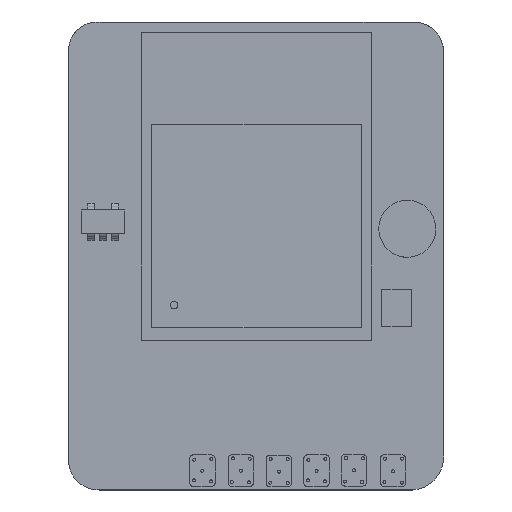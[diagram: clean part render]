
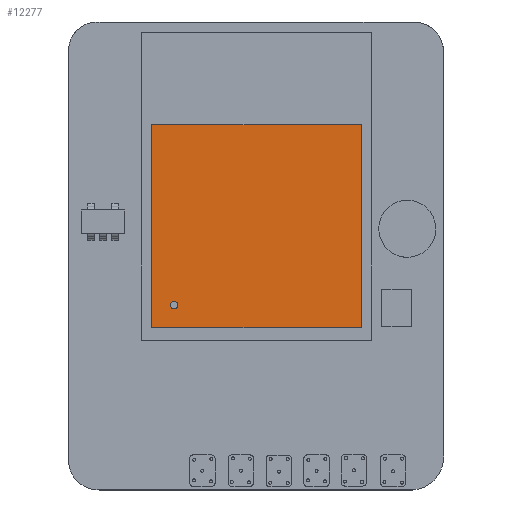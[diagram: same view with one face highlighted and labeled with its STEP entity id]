
A CAD part, top view. The second image highlights one B-rep face of the part: STEP entity #12277.
In plain terms, the highlighted planar face has unit normal (0, 0, 1).
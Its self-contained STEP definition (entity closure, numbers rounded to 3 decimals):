
#129 = EDGE_LOOP ( 'NONE', ( #6034, #7463 ) ) ;
#283 = CARTESIAN_POINT ( 'NONE',  ( -5.45, -8., 4.2 ) ) ;
#408 = VERTEX_POINT ( 'NONE', #10235 ) ;
#558 = CARTESIAN_POINT ( 'NONE',  ( -5.7, -8.25, 4.2 ) ) ;
#1457 = VERTEX_POINT ( 'NONE', #4093 ) ;
#2751 = ORIENTED_EDGE ( 'NONE', *, *, #10803, .F. ) ;
#3380 = ORIENTED_EDGE ( 'NONE', *, *, #13485, .F. ) ;
#3527 = CARTESIAN_POINT ( 'NONE',  ( -6.95, 3.8, 4.2 ) ) ;
#3646 = B_SPLINE_CURVE_WITH_KNOTS ( 'NONE', 1,
 ( #17366, #10234 ),
 .UNSPECIFIED., .F., .F.,
 ( 2, 2 ),
 ( -39., -26. ),
 .UNSPECIFIED. ) ;
#3715 = DIRECTION ( 'NONE',  ( 0., 0., 1. ) ) ;
#4093 = CARTESIAN_POINT ( 'NONE',  ( 7.05, 3.8, 4.2 ) ) ;
#4547 = CARTESIAN_POINT ( 'NONE',  ( -5.2, -8., 4.2 ) ) ;
#4733 = CARTESIAN_POINT ( 'NONE',  ( -5.7, -8., 4.2 ) ) ;
#5036 = CARTESIAN_POINT ( 'NONE',  ( -5.7, -8.25, 4.2 ) ) ;
#5108 = CARTESIAN_POINT ( 'NONE',  ( -5.2, -8.25, 4.2 ) ) ;
#6034 = ORIENTED_EDGE ( 'NONE', *, *, #14618, .T. ) ;
#6510 = CARTESIAN_POINT ( 'NONE',  ( -5.2, -8.25, 4.2 ) ) ;
#7172 = EDGE_CURVE ( 'NONE', #408, #1457, #12500, .T. ) ;
#7184 = VERTEX_POINT ( 'NONE', #5036 ) ;
#7463 = ORIENTED_EDGE ( 'NONE', *, *, #14895, .T. ) ;
#7776 =( BOUNDED_CURVE ( )  B_SPLINE_CURVE ( 2, ( #558, #4733, #283, #4547, #10193 ),
 .UNSPECIFIED., .F., .T. ) 
 B_SPLINE_CURVE_WITH_KNOTS ( ( 3, 2, 3 ),
 ( 0.785, 1.178, 1.571 ),
 .UNSPECIFIED. ) 
 CURVE ( )  GEOMETRIC_REPRESENTATION_ITEM ( )  RATIONAL_B_SPLINE_CURVE ( ( 1., 0.707, 1., 0.707, 1. ) ) 
 REPRESENTATION_ITEM ( '' )  );
#7817 = CARTESIAN_POINT ( 'NONE',  ( -6.95, 3.8, 4.2 ) ) ;
#8175 = ORIENTED_EDGE ( 'NONE', *, *, #7172, .F. ) ;
#9345 = DIRECTION ( 'NONE',  ( 1., 0., 0. ) ) ;
#9850 = CARTESIAN_POINT ( 'NONE',  ( -6.95, -9.75, 4.2 ) ) ;
#10193 = CARTESIAN_POINT ( 'NONE',  ( -5.2, -8.25, 4.2 ) ) ;
#10234 = CARTESIAN_POINT ( 'NONE',  ( 7.05, -9.75, 4.2 ) ) ;
#10235 = CARTESIAN_POINT ( 'NONE',  ( -6.95, 3.8, 4.2 ) ) ;
#10270 = VERTEX_POINT ( 'NONE', #5108 ) ;
#10608 = CARTESIAN_POINT ( 'NONE',  ( -6.95, -9.75, 4.2 ) ) ;
#10743 = PLANE ( 'NONE',  #14292 ) ;
#10803 = EDGE_CURVE ( 'NONE', #1457, #16763, #3646, .T. ) ;
#10954 = CARTESIAN_POINT ( 'NONE',  ( -5.7, -8.25, 4.2 ) ) ;
#11241 = CARTESIAN_POINT ( 'NONE',  ( 7.05, -9.75, 4.2 ) ) ;
#11765 = FACE_OUTER_BOUND ( 'NONE', #12916, .T. ) ;
#11951 = FACE_BOUND ( 'NONE', #129, .T. ) ;
#12224 = CARTESIAN_POINT ( 'NONE',  ( -6.95, -9.75, 4.2 ) ) ;
#12246 = CARTESIAN_POINT ( 'NONE',  ( -5.2, -8.5, 4.2 ) ) ;
#12277 = ADVANCED_FACE ( 'NONE', ( #11951, #11765 ), #10743, .T. ) ;
#12500 = B_SPLINE_CURVE_WITH_KNOTS ( 'NONE', 1,
 ( #7817, #15036 ),
 .UNSPECIFIED., .F., .F.,
 ( 2, 2 ),
 ( -52., -39. ),
 .UNSPECIFIED. ) ;
#12916 = EDGE_LOOP ( 'NONE', ( #3380, #16518, #2751, #8175 ) ) ;
#13126 = B_SPLINE_CURVE_WITH_KNOTS ( 'NONE', 1,
 ( #12224, #3527 ),
 .UNSPECIFIED., .F., .F.,
 ( 2, 2 ),
 ( -13., 0. ),
 .UNSPECIFIED. ) ;
#13485 = EDGE_CURVE ( 'NONE', #16099, #408, #13126, .T. ) ;
#13909 = CARTESIAN_POINT ( 'NONE',  ( -5.45, -8.5, 4.2 ) ) ;
#14292 = AXIS2_PLACEMENT_3D ( 'NONE', #17689, #3715, #9345 ) ;
#14533 = EDGE_CURVE ( 'NONE', #16763, #16099, #15985, .T. ) ;
#14618 = EDGE_CURVE ( 'NONE', #10270, #7184, #16436, .T. ) ;
#14895 = EDGE_CURVE ( 'NONE', #7184, #10270, #7776, .T. ) ;
#15036 = CARTESIAN_POINT ( 'NONE',  ( 7.05, 3.8, 4.2 ) ) ;
#15070 = CARTESIAN_POINT ( 'NONE',  ( 7.05, -9.75, 4.2 ) ) ;
#15217 = CARTESIAN_POINT ( 'NONE',  ( -5.7, -8.5, 4.2 ) ) ;
#15985 = B_SPLINE_CURVE_WITH_KNOTS ( 'NONE', 1,
 ( #11241, #9850 ),
 .UNSPECIFIED., .F., .F.,
 ( 2, 2 ),
 ( -26., -13. ),
 .UNSPECIFIED. ) ;
#16099 = VERTEX_POINT ( 'NONE', #10608 ) ;
#16436 =( BOUNDED_CURVE ( )  B_SPLINE_CURVE ( 2, ( #6510, #12246, #13909, #15217, #10954 ),
 .UNSPECIFIED., .F., .T. ) 
 B_SPLINE_CURVE_WITH_KNOTS ( ( 3, 2, 3 ),
 ( 0., 0.393, 0.785 ),
 .UNSPECIFIED. ) 
 CURVE ( )  GEOMETRIC_REPRESENTATION_ITEM ( )  RATIONAL_B_SPLINE_CURVE ( ( 1., 0.707, 1., 0.707, 1. ) ) 
 REPRESENTATION_ITEM ( '' )  );
#16518 = ORIENTED_EDGE ( 'NONE', *, *, #14533, .F. ) ;
#16763 = VERTEX_POINT ( 'NONE', #15070 ) ;
#17366 = CARTESIAN_POINT ( 'NONE',  ( 7.05, 3.8, 4.2 ) ) ;
#17689 = CARTESIAN_POINT ( 'NONE',  ( 7.05, -9.75, 4.2 ) ) ;
